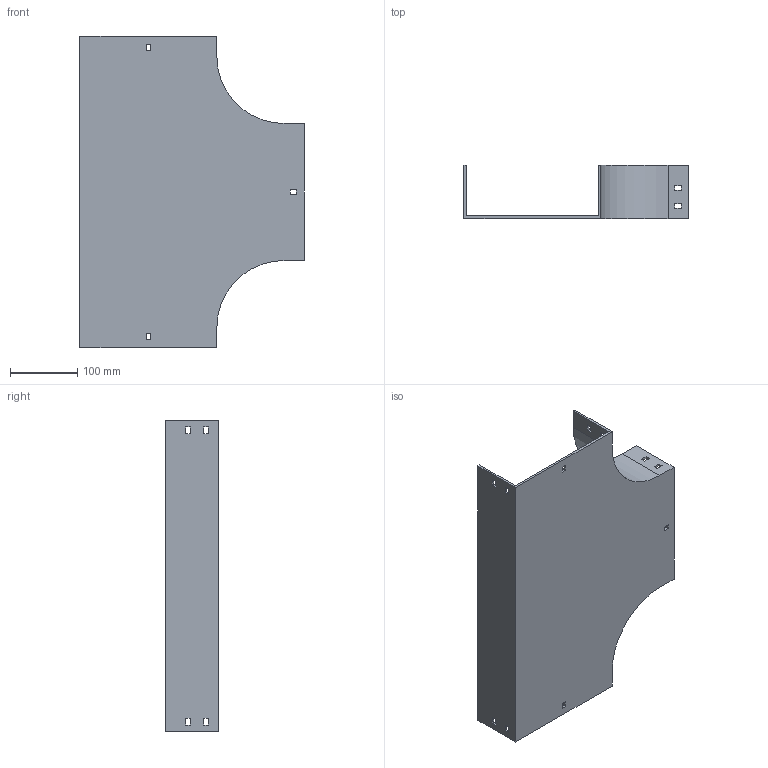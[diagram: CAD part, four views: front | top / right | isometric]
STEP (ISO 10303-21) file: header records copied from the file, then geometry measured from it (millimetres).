
FILE_DESCRIPTION (( 'STEP AP214' ), '1' );
FILE_NAME ('15F1C200.step', '2025-02-21T13:04:44', ( '' ), ( '' ), 'SwSTEP 2.0', 'SolidWorks 2023', '' );
FILE_SCHEMA (( 'AUTOMOTIVE_DESIGN' ));
Length unit declared in the file: millimetre
Products named in the file (1): 15F1C200
Bounding box: 334 x 79 x 464 mm (x, y, z)
Volume: 674375.3 mm3; surface area: 393981.8 mm2
Topology: 1 solids, 1 shells, 82 faces, 240 edges, 160 vertices
Faces by surface type: plane 78, cylinder 4
Entity records: 2755 total; most frequent: CARTESIAN_POINT 483, ORIENTED_EDGE 480, DIRECTION 414, EDGE_CURVE 240, VECTOR 232, LINE 232, VERTEX_POINT 160, EDGE_LOOP 112
